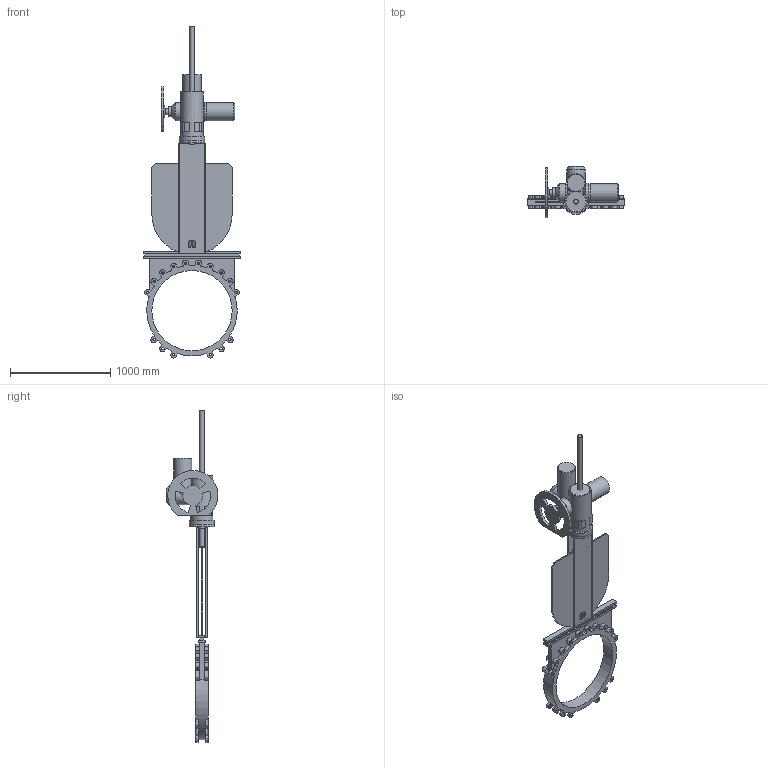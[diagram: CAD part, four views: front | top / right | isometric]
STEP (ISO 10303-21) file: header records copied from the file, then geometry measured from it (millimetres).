
FILE_DESCRIPTION(('STEP AP203'), '1');
FILE_NAME('K51GVA_DN800+MT903.A 80', '', ('UNSPECIFIED'), ('UNSPECIFIED'), 'ASCON STEP Converter 1.6', 'ASCON Math Kernel', '');
FILE_SCHEMA(('CONFIG_CONTROL_DESIGN'));
Length unit declared in the file: millimetre
Assembly tree (2 placements, depth 2):
  (unnamed)
    (unnamed)
    (unnamed)
Bounding box: 975 x 516.46 x 3308.17 mm (x, y, z)
Volume: 91022958.4 mm3; surface area: 6262488.7 mm2
Topology: 8 solids, 8 shells, 444 faces, 1172 edges, 769 vertices
Faces by surface type: plane 212, cylinder 193, cone 38, torus 1
Full cylindrical faces by diameter (mm): 13.835 x8, 17.5 x4, 18 x8, 22 x4, 23.752 x32, 46 x1, 60 x1, 80 x1, 100 x1, 140 x3, 180 x4, 187 x1, 191 x1, 220 x1, 250 x2, 800 x1, 901 x1
Entity records: 14317 total; most frequent: CARTESIAN_POINT 3285, DIRECTION 2364, ORIENTED_EDGE 2062, EDGE_CURVE 1031, AXIS2_PLACEMENT_3D 909, VERTEX_POINT 740, EDGE_LOOP 629, LINE 546
